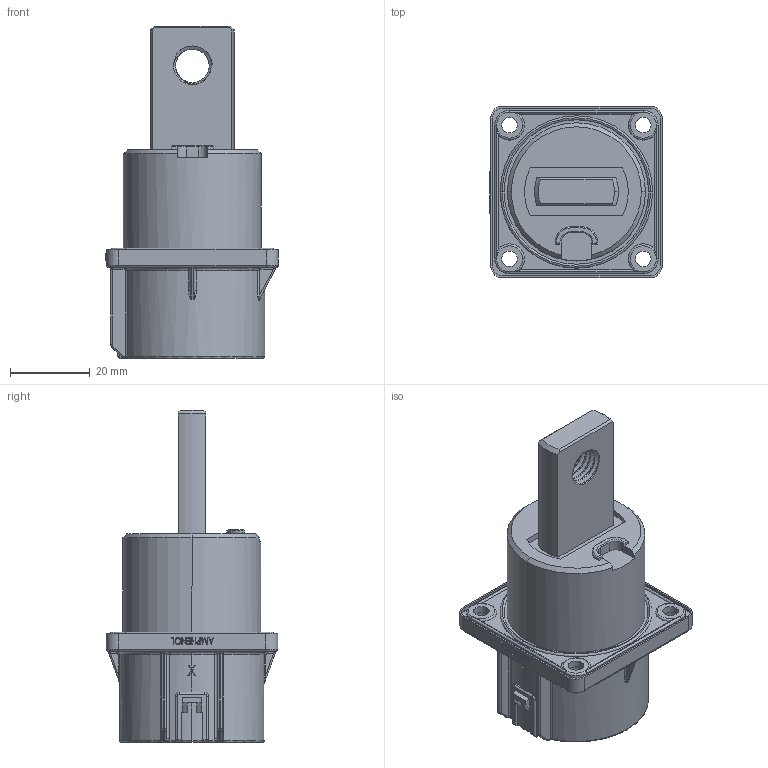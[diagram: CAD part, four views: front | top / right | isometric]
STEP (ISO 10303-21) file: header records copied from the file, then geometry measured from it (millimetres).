
FILE_DESCRIPTION (( 'STEP AP214' ), '1' );
FILE_NAME ('PL00X-500-90M10.STEP', '2016-12-13T12:40:12', ( '' ), ( '' ), 'SwSTEP 2.0', 'SolidWorks 2014', '' );
FILE_SCHEMA (( 'AUTOMOTIVE_DESIGN' ));
Length unit declared in the file: millimetre
Products named in the file (1): PL00X-500-90M10
Bounding box: 43.2 x 43 x 83.2 mm (x, y, z)
Volume: 40646 mm3; surface area: 16678 mm2
Topology: 1 solids, 1 shells, 515 faces, 1285 edges, 794 vertices
Faces by surface type: plane 212, cylinder 158, bspline 68, torus 51, cone 26
Entity records: 23903 total; most frequent: CARTESIAN_POINT 6463, ORIENTED_EDGE 2562, DIRECTION 2336, EDGE_CURVE 1281, AXIS2_PLACEMENT_3D 844, VERTEX_POINT 794, LINE 648, VECTOR 648
